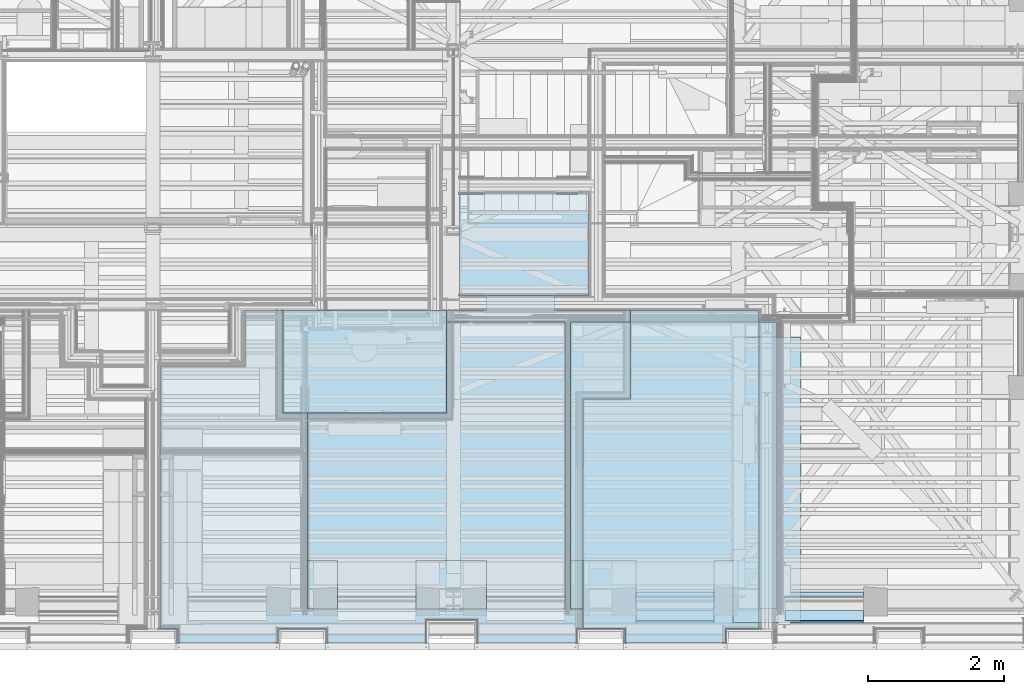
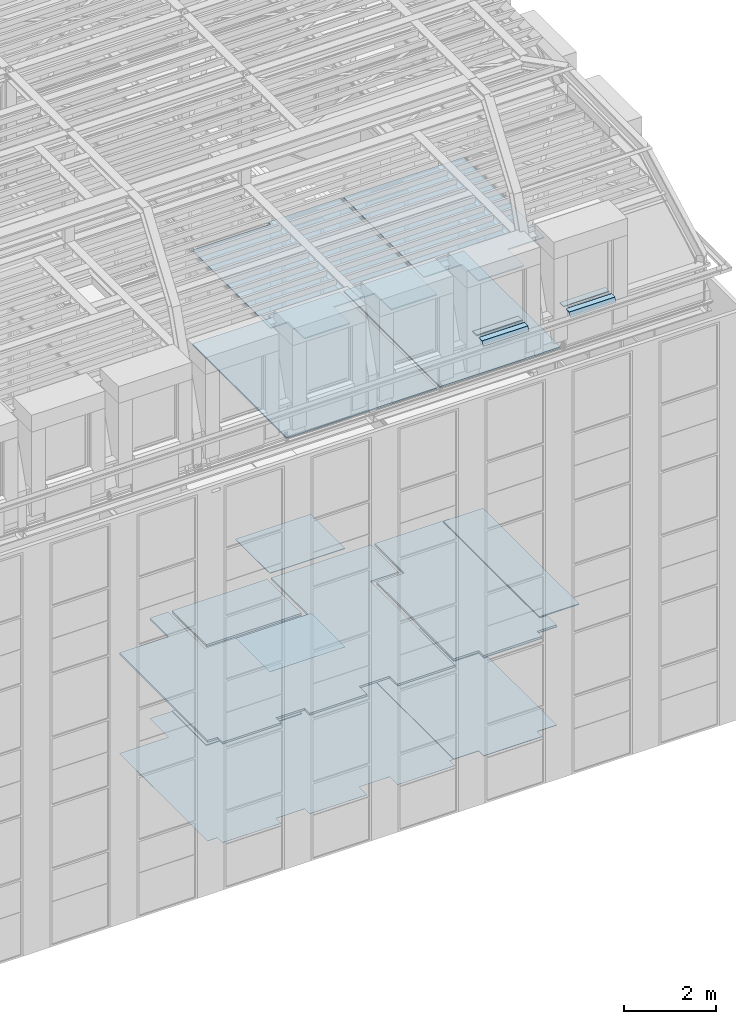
# One storey, part 91 of 183: 26 slabs.
"""IFC2X3 building model written with IfcOpenShell, lengths in metres."""

from ifc_helpers import new_model, entity, si_unit, converted_unit, derived_unit, money_unit, direction, frame, origin_with_axes, place, context, subcontext, project, spatial, faceted_brep, material, type_object, element, save


model = new_model("IFC2X3")

# Units and contexts
model_context = context("Model", 3, precision=1e-05, world=origin_with_axes(), true_north=direction((0.0, 1.0)))
body_context = subcontext(model_context, "Body", "Model", "MODEL_VIEW", scale=1.0)
ifc_project = project(units=[si_unit("LENGTHUNIT", "METRE"), si_unit("AREAUNIT", "SQUARE_METRE"), si_unit("VOLUMEUNIT", "CUBIC_METRE"), si_unit("ABSORBEDDOSEUNIT", "GRAY"), si_unit("AMOUNTOFSUBSTANCEUNIT", "MOLE"), si_unit("DOSEEQUIVALENTUNIT", "SIEVERT"), si_unit("ELECTRICCAPACITANCEUNIT", "FARAD"), si_unit("ELECTRICCHARGEUNIT", "COULOMB"), si_unit("ELECTRICCONDUCTANCEUNIT", "SIEMENS"), si_unit("ELECTRICCURRENTUNIT", "AMPERE"), si_unit("ELECTRICRESISTANCEUNIT", "OHM"), si_unit("ELECTRICVOLTAGEUNIT", "VOLT"), si_unit("ENERGYUNIT", "JOULE"), si_unit("FORCEUNIT", "NEWTON"), si_unit("FREQUENCYUNIT", "HERTZ"), si_unit("ILLUMINANCEUNIT", "LUX"), si_unit("INDUCTANCEUNIT", "HENRY"), si_unit("LUMINOUSFLUXUNIT", "LUMEN"), si_unit("LUMINOUSINTENSITYUNIT", "CANDELA"), si_unit("MAGNETICFLUXDENSITYUNIT", "TESLA"), si_unit("MAGNETICFLUXUNIT", "WEBER"), si_unit("MASSUNIT", "GRAM"), converted_unit("PLANEANGLEUNIT", "degree", entity("IfcReal", 0.0174532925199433), si_unit("PLANEANGLEUNIT", "RADIAN"), dimensions=[0, 0, 0, 0, 0, 0, 0]), si_unit("POWERUNIT", "WATT"), si_unit("PRESSUREUNIT", "PASCAL"), si_unit("RADIOACTIVITYUNIT", "BECQUEREL"), si_unit("SOLIDANGLEUNIT", "STERADIAN"), si_unit("THERMODYNAMICTEMPERATUREUNIT", "KELVIN"), si_unit("TIMEUNIT", "SECOND"), derived_unit("ACCELERATIONUNIT", [(si_unit("LENGTHUNIT", "METRE"), 1), (si_unit("TIMEUNIT", "SECOND"), -2)]), derived_unit("ANGULARVELOCITYUNIT", [(converted_unit("PLANEANGLEUNIT", "degree", entity("IfcReal", 0.0174532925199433), si_unit("PLANEANGLEUNIT", "RADIAN"), dimensions=[0, 0, 0, 0, 0, 0, 0]), 1), (si_unit("TIMEUNIT", "SECOND"), -1)]), derived_unit("CURVATUREUNIT", [(converted_unit("PLANEANGLEUNIT", "degree", entity("IfcReal", 0.0174532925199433), si_unit("PLANEANGLEUNIT", "RADIAN"), dimensions=[0, 0, 0, 0, 0, 0, 0]), 1), (si_unit("LENGTHUNIT", "METRE"), -1)]), derived_unit("DYNAMICVISCOSITYUNIT", [(si_unit("PRESSUREUNIT", "PASCAL"), 1), (si_unit("TIMEUNIT", "SECOND"), 1)]), derived_unit("HEATFLUXDENSITYUNIT", [(si_unit("POWERUNIT", "WATT"), 1), (si_unit("LENGTHUNIT", "METRE"), -2)]), derived_unit("HEATINGVALUEUNIT", [(si_unit("ENERGYUNIT", "JOULE"), 1), (si_unit("MASSUNIT", "GRAM"), -1)]), derived_unit("INTEGERCOUNTRATEUNIT", [(si_unit("TIMEUNIT", "SECOND"), -1)]), derived_unit("IONCONCENTRATIONUNIT", [(si_unit("MASSUNIT", "GRAM"), 1), (si_unit("VOLUMEUNIT", "CUBIC_METRE"), -1)]), derived_unit("ISOTHERMALMOISTURECAPACITYUNIT", [(si_unit("VOLUMEUNIT", "CUBIC_METRE"), 1), (si_unit("MASSUNIT", "GRAM"), -1)]), derived_unit("KINEMATICVISCOSITYUNIT", [(si_unit("AREAUNIT", "SQUARE_METRE"), 1), (si_unit("TIMEUNIT", "SECOND"), -1)]), derived_unit("LINEARFORCEUNIT", [(si_unit("FORCEUNIT", "NEWTON"), 1), (si_unit("LENGTHUNIT", "METRE"), -1)]), derived_unit("LINEARMOMENTUNIT", [(si_unit("FORCEUNIT", "NEWTON"), 1), (si_unit("LENGTHUNIT", "METRE"), -1)]), derived_unit("LINEARSTIFFNESSUNIT", [(si_unit("FORCEUNIT", "NEWTON"), 1), (si_unit("LENGTHUNIT", "METRE"), -1)]), derived_unit("LINEARVELOCITYUNIT", [(si_unit("LENGTHUNIT", "METRE"), 1), (si_unit("TIMEUNIT", "SECOND"), -1)]), derived_unit("LUMINOUSINTENSITYDISTRIBUTIONUNIT", [(si_unit("LUMINOUSINTENSITYUNIT", "CANDELA"), 1), (si_unit("LUMINOUSFLUXUNIT", "LUMEN"), -1)]), derived_unit("MASSDENSITYUNIT", [(si_unit("MASSUNIT", "GRAM"), 1), (si_unit("VOLUMEUNIT", "CUBIC_METRE"), -1)]), derived_unit("MASSFLOWRATEUNIT", [(si_unit("MASSUNIT", "GRAM"), 1), (si_unit("TIMEUNIT", "SECOND"), -1)]), derived_unit("MASSPERLENGTHUNIT", [(si_unit("MASSUNIT", "GRAM"), 1), (si_unit("LENGTHUNIT", "METRE"), -1)]), derived_unit("MODULUSOFELASTICITYUNIT", [(si_unit("FORCEUNIT", "NEWTON"), 1), (si_unit("AREAUNIT", "SQUARE_METRE"), -1)]), derived_unit("MODULUSOFLINEARSUBGRADEREACTIONUNIT", [(si_unit("FORCEUNIT", "NEWTON"), 1), (si_unit("LENGTHUNIT", "METRE"), -2)]), derived_unit("MODULUSOFROTATIONALSUBGRADEREACTIONUNIT", [(si_unit("FORCEUNIT", "NEWTON"), 1), (si_unit("LENGTHUNIT", "METRE"), 1)]), derived_unit("MODULUSOFSUBGRADEREACTIONUNIT", [(si_unit("FORCEUNIT", "NEWTON"), 1), (si_unit("VOLUMEUNIT", "CUBIC_METRE"), -1)]), derived_unit("MOISTUREDIFFUSIVITYUNIT", [(si_unit("VOLUMEUNIT", "CUBIC_METRE"), 1), (si_unit("TIMEUNIT", "SECOND"), -1)]), derived_unit("MOLECULARWEIGHTUNIT", [(si_unit("MASSUNIT", "GRAM"), 1), (si_unit("AMOUNTOFSUBSTANCEUNIT", "MOLE"), -1)]), derived_unit("PLANARFORCEUNIT", [(si_unit("FORCEUNIT", "NEWTON"), 1), (si_unit("LENGTHUNIT", "METRE"), -2)]), derived_unit("ROTATIONALFREQUENCYUNIT", [(si_unit("TIMEUNIT", "SECOND"), -1)]), derived_unit("ROTATIONALMASSUNIT", [(si_unit("MASSUNIT", "GRAM"), 1), (si_unit("LENGTHUNIT", "METRE"), 2)]), derived_unit("ROTATIONALSTIFFNESSUNIT", [(si_unit("FORCEUNIT", "NEWTON"), 1), (si_unit("LENGTHUNIT", "METRE"), 1), (converted_unit("PLANEANGLEUNIT", "degree", entity("IfcReal", 0.0174532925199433), si_unit("PLANEANGLEUNIT", "RADIAN"), dimensions=[0, 0, 0, 0, 0, 0, 0]), -1)]), derived_unit("SECTIONAREAINTEGRALUNIT", [(si_unit("LENGTHUNIT", "METRE"), 5)]), derived_unit("SECTIONMODULUSUNIT", [(si_unit("LENGTHUNIT", "METRE"), 3)]), derived_unit("SHEARMODULUSUNIT", [(si_unit("FORCEUNIT", "NEWTON"), 1), (si_unit("AREAUNIT", "SQUARE_METRE"), -1)]), derived_unit("SOUNDPOWERUNIT", [(si_unit("ENERGYUNIT", "JOULE"), 1), (si_unit("TIMEUNIT", "SECOND"), -1)]), derived_unit("SPECIFICHEATCAPACITYUNIT", [(si_unit("FORCEUNIT", "NEWTON"), 1), (si_unit("MASSUNIT", "GRAM"), -1), (si_unit("THERMODYNAMICTEMPERATUREUNIT", "KELVIN"), -1)]), derived_unit("TEMPERATUREGRADIENTUNIT", [(si_unit("THERMODYNAMICTEMPERATUREUNIT", "KELVIN"), 1), (si_unit("LENGTHUNIT", "METRE"), -1)]), derived_unit("THERMALADMITTANCEUNIT", [(si_unit("POWERUNIT", "WATT"), 1), (si_unit("AREAUNIT", "SQUARE_METRE"), -1), (si_unit("THERMODYNAMICTEMPERATUREUNIT", "KELVIN"), -1)]), derived_unit("THERMALCONDUCTANCEUNIT", [(si_unit("POWERUNIT", "WATT"), 1), (si_unit("LENGTHUNIT", "METRE"), -1), (si_unit("THERMODYNAMICTEMPERATUREUNIT", "KELVIN"), -1)]), derived_unit("THERMALEXPANSIONCOEFFICIENTUNIT", [(si_unit("THERMODYNAMICTEMPERATUREUNIT", "KELVIN"), -1)]), derived_unit("THERMALRESISTANCEUNIT", [(si_unit("AREAUNIT", "SQUARE_METRE"), 1), (si_unit("POWERUNIT", "WATT"), -1)]), derived_unit("THERMALTRANSMITTANCEUNIT", [(si_unit("POWERUNIT", "WATT"), 1), (si_unit("AREAUNIT", "SQUARE_METRE"), -1), (si_unit("THERMODYNAMICTEMPERATUREUNIT", "KELVIN"), -1)]), derived_unit("TORQUEUNIT", [(si_unit("FORCEUNIT", "NEWTON"), 1), (si_unit("LENGTHUNIT", "METRE"), 1)]), derived_unit("VAPORPERMEABILITYUNIT", [(si_unit("MASSUNIT", "GRAM"), 1), (si_unit("TIMEUNIT", "SECOND"), -1)]), derived_unit("VOLUMETRICFLOWRATEUNIT", [(si_unit("VOLUMEUNIT", "CUBIC_METRE"), 1), (si_unit("TIMEUNIT", "SECOND"), -1)]), derived_unit("WARPINGCONSTANTUNIT", [(si_unit("LENGTHUNIT", "METRE"), 6)]), derived_unit("WARPINGMOMENTUNIT", [(si_unit("FORCEUNIT", "NEWTON"), 1), (si_unit("LENGTHUNIT", "METRE"), 2)]), money_unit("GBP")], contexts=[model_context])

# Site, building, storey
site_placement = place(None, origin_with_axes())
site = spatial("IfcSite", under=ifc_project, at=site_placement, Name="Site", CompositionType="ELEMENT")
building_placement = place(site_placement, origin_with_axes())
building = spatial("IfcBuilding", under=site, at=building_placement, Name="Building01", CompositionType="ELEMENT")
storey_placement = place(building_placement, frame((0.0, 0.0, 5.15), z_axis=(0.0, 0.0, 1.0), x_axis=(1.0, 0.0, 0.0)))
storey = spatial("IfcBuildingStorey", under=building, at=storey_placement, Name="1F", CompositionType="ELEMENT", Elevation=5.15)

# Slabs
ifc_material_1 = material(Name="A_BSUK_CeilingSoffitFinishes_Suspended")
slab_type_1 = type_object("IfcSlabType", Name="A-FloorsSlabs A_BSUK_Slabs", PredefinedType="FLOOR")
placement = place(storey_placement, frame((0.0, 0.0, -5.15), z_axis=(0.0, 0.0, 1.0), x_axis=(1.0, 0.0, 0.0)))
element("IfcSlab", 1, at=placement, inside=storey, type_object=slab_type_1, material=ifc_material_1, Name="A-FloorsSlabs A_BSUK_Slabs", ObjectType="CompoundSlabLeaf", context=body_context, shape_type="Brep", body=[
    faceted_brep([(18.0, 6.705, 7.765), (18.0, 6.705, 7.78), (19.897661, 6.705, 7.78), (19.897661, 6.705, 7.765), (18.0, 5.205, 7.765), (18.0, 5.205, 7.78), (19.897661, 5.205, 7.765), (19.897661, 5.205, 7.78)], [[[0, 1, 2, 3]], [[4, 5, 1, 0]], [[6, 7, 5, 4]], [[3, 2, 7, 6]], [[1, 5, 7, 2]], [[3, 6, 4, 0]]]),
])
ifc_material_2 = material(Name="A_BSUK_ExpandedPolystyreneBoards")
element("IfcSlab", 2, at=placement, inside=storey, type_object=slab_type_1, material=ifc_material_2, Name="A-FloorsSlabs A_BSUK_Slabs", ObjectType="CompoundSlabLeaf", context=body_context, shape_type="Brep", body=[
    faceted_brep([(18.0, 6.69, 5.15), (18.0, 6.69, 5.153), (19.897661, 6.69, 5.153), (19.897661, 6.69, 5.15), (18.0, 5.205, 5.15), (18.0, 5.205, 5.153), (19.897661, 5.205, 5.15), (19.897661, 5.205, 5.153)], [[[0, 1, 2, 3]], [[4, 5, 1, 0]], [[6, 7, 5, 4]], [[3, 2, 7, 6]], [[1, 5, 7, 2]], [[3, 6, 4, 0]]]),
])
element("IfcSlab", 3, at=placement, inside=storey, type_object=slab_type_1, material=ifc_material_2, Name="A-FloorsSlabs A_BSUK_Slabs", ObjectType="CompoundSlabLeaf", context=body_context, shape_type="Brep", body=[
    faceted_brep([(14.85, 4.164428, 5.15), (14.85, 4.164428, 5.153), (14.85, 4.98, 5.153), (14.85, 4.98, 5.15), (13.6125, 4.164428, 5.15), (13.6125, 4.164428, 5.153), (13.6125, 0.318, 5.15), (13.6125, 0.318, 5.153), (13.865, 0.318, 5.15), (13.865, 0.318, 5.153), (13.865, 0.1, 5.15), (13.865, 0.1, 5.153), (15.335, 0.1, 5.15), (15.335, 0.1, 5.153), (15.335, 0.318, 5.15), (15.335, 0.318, 5.153), (16.055, 0.318, 5.15), (16.055, 0.318, 5.153), (16.055, 0.1, 5.15), (16.055, 0.1, 5.153), (17.502, 0.1, 5.15), (17.502, 0.1, 5.153), (17.502, 0.448, 5.15), (17.502, 0.448, 5.153), (18.268, 0.448, 5.15), (18.268, 0.448, 5.153), (18.268, 0.1, 5.15), (18.268, 0.1, 5.153), (19.715, 0.1, 5.15), (19.715, 0.1, 5.153), (19.715, 0.318, 5.15), (19.715, 0.318, 5.153), (20.435, 0.318, 5.15), (20.435, 0.318, 5.153), (20.435, 0.1, 5.15), (20.435, 0.1, 5.153), (21.905, 0.1, 5.15), (21.905, 0.1, 5.153), (21.905, 0.318, 5.15), (21.905, 0.318, 5.153), (22.4, 0.318, 5.15), (22.4, 0.318, 5.153), (22.4, 4.98, 5.15), (22.4, 4.98, 5.153), (19.392, 4.98, 5.15), (19.392, 4.98, 5.153), (19.392, 5.205, 5.15), (19.392, 5.205, 5.153), (18.392, 5.205, 5.15), (18.392, 5.205, 5.153), (18.392, 4.98, 5.15), (18.392, 4.98, 5.153), (18.0, 4.98, 5.15), (18.0, 4.98, 5.153)], [[[0, 1, 2, 3]], [[4, 5, 1, 0]], [[6, 7, 5, 4]], [[8, 9, 7, 6]], [[10, 11, 9, 8]], [[12, 13, 11, 10]], [[14, 15, 13, 12]], [[16, 17, 15, 14]], [[18, 19, 17, 16]], [[20, 21, 19, 18]], [[22, 23, 21, 20]], [[24, 25, 23, 22]], [[26, 27, 25, 24]], [[28, 29, 27, 26]], [[30, 31, 29, 28]], [[32, 33, 31, 30]], [[34, 35, 33, 32]], [[36, 37, 35, 34]], [[38, 39, 37, 36]], [[40, 41, 39, 38]], [[42, 43, 41, 40]], [[44, 45, 43, 42]], [[46, 47, 45, 44]], [[48, 49, 47, 46]], [[50, 51, 49, 48]], [[52, 53, 51, 50]], [[3, 2, 53, 52]], [[1, 5, 7, 9, 11, 13, 15, 17, 19, 21, 23, 25, 27, 29, 31, 33, 35, 37, 39, 41, 43, 45, 47, 49, 51, 53, 2]], [[3, 52, 50, 48, 46, 44, 42, 40, 38, 36, 34, 32, 30, 28, 26, 24, 22, 20, 18, 16, 14, 12, 10, 8, 6, 4, 0]]]),
])
ifc_material_3 = material(Name="A_BSUK_Ceramic_FloorTiles")
element("IfcSlab", 4, at=placement, inside=storey, type_object=slab_type_1, material=ifc_material_3, Name="A-FloorsSlabs A_BSUK_Slabs", ObjectType="CompoundSlabLeaf", context=body_context, shape_type="Brep", body=[
    faceted_brep([(15.4075, 4.98, 5.153), (15.4075, 4.98, 5.165), (17.8075, 4.98, 5.165), (17.8075, 4.98, 5.153), (15.4075, 4.259428, 5.153), (15.4075, 4.259428, 5.165), (15.4075, 3.48, 5.153), (15.4075, 3.48, 5.165), (17.8075, 3.48, 5.153), (17.8075, 3.48, 5.165)], [[[0, 1, 2, 3]], [[4, 5, 1, 0]], [[6, 7, 5, 4]], [[8, 9, 7, 6]], [[3, 2, 9, 8]], [[1, 5, 7, 9, 2]], [[3, 8, 6, 4, 0]]]),
])
ifc_material_4 = material(Name="A_BSUK_Carpet-Pile")
element("IfcSlab", 5, at=placement, inside=storey, type_object=slab_type_1, material=ifc_material_4, Name="A-FloorsSlabs A_BSUK_Slabs", ObjectType="CompoundSlabLeaf", context=body_context, shape_type="Brep", body=[
    faceted_brep([(20.51, 4.98, 5.153), (20.51, 4.98, 5.165), (22.4, 4.98, 5.165), (22.4, 4.98, 5.153), (20.51, 3.685, 5.153), (20.51, 3.685, 5.165), (19.81, 3.685, 5.153), (19.81, 3.685, 5.165), (19.81, 0.318, 5.153), (19.81, 0.318, 5.165), (20.435, 0.318, 5.153), (20.435, 0.318, 5.165), (20.435, 0.1, 5.153), (20.435, 0.1, 5.165), (21.905, 0.1, 5.153), (21.905, 0.1, 5.165), (21.905, 0.318, 5.153), (21.905, 0.318, 5.165), (22.4, 0.318, 5.153), (22.4, 0.318, 5.165)], [[[0, 1, 2, 3]], [[4, 5, 1, 0]], [[6, 7, 5, 4]], [[8, 9, 7, 6]], [[10, 11, 9, 8]], [[12, 13, 11, 10]], [[14, 15, 13, 12]], [[16, 17, 15, 14]], [[18, 19, 17, 16]], [[3, 2, 19, 18]], [[1, 5, 7, 9, 11, 13, 15, 17, 19, 2]], [[3, 18, 16, 14, 12, 10, 8, 6, 4, 0]]]),
])
element("IfcSlab", 6, at=placement, inside=storey, type_object=slab_type_1, material=ifc_material_1, Name="A-FloorsSlabs A_BSUK_Slabs", ObjectType="CompoundSlabLeaf", context=body_context, shape_type="Brep", body=[
    faceted_brep([(15.4075, 4.98, 7.765), (15.4075, 4.98, 7.78), (17.8075, 4.98, 7.78), (17.8075, 4.98, 7.765), (15.4075, 4.259428, 7.765), (15.4075, 4.259428, 7.78), (15.4075, 3.48, 7.765), (15.4075, 3.48, 7.78), (17.8075, 3.48, 7.765), (17.8075, 3.48, 7.78)], [[[0, 1, 2, 3]], [[4, 5, 1, 0]], [[6, 7, 5, 4]], [[8, 9, 7, 6]], [[3, 2, 9, 8]], [[1, 5, 7, 9, 2]], [[3, 8, 6, 4, 0]]]),
])
element("IfcSlab", 7, at=placement, inside=storey, type_object=slab_type_1, material=ifc_material_1, Name="A-FloorsSlabs A_BSUK_Slabs", ObjectType="CompoundSlabLeaf", context=body_context, shape_type="Brep", body=[
    faceted_brep([(20.51, 4.98, 7.765), (20.51, 4.98, 7.78), (22.4, 4.98, 7.78), (22.4, 4.98, 7.765), (20.51, 3.685, 7.765), (20.51, 3.685, 7.78), (19.81, 3.685, 7.765), (19.81, 3.685, 7.78), (19.81, 0.318, 7.765), (19.81, 0.318, 7.78), (20.435, 0.318, 7.765), (20.435, 0.318, 7.78), (20.435, 0.1, 7.765), (20.435, 0.1, 7.78), (21.905, 0.1, 7.765), (21.905, 0.1, 7.78), (21.905, 0.318, 7.765), (21.905, 0.318, 7.78), (22.4, 0.318, 7.765), (22.4, 0.318, 7.78)], [[[0, 1, 2, 3]], [[4, 5, 1, 0]], [[6, 7, 5, 4]], [[8, 9, 7, 6]], [[10, 11, 9, 8]], [[12, 13, 11, 10]], [[14, 15, 13, 12]], [[16, 17, 15, 14]], [[18, 19, 17, 16]], [[3, 2, 19, 18]], [[1, 5, 7, 9, 11, 13, 15, 17, 19, 2]], [[3, 18, 16, 14, 12, 10, 8, 6, 4, 0]]]),
])
element("IfcSlab", 8, at=placement, inside=storey, type_object=slab_type_1, material=ifc_material_1, Name="A-FloorsSlabs A_BSUK_Slabs", ObjectType="CompoundSlabLeaf", context=body_context, shape_type="Brep", body=[
    faceted_brep([(22.0125, 0.4, 8.115), (22.0125, 0.4, 8.13), (22.0125, 4.593, 8.13), (22.0125, 4.593, 8.115), (23.0125, 0.4, 8.115), (23.0125, 0.4, 8.13), (23.0125, 4.593, 8.115), (23.0125, 4.593, 8.13)], [[[0, 1, 2, 3]], [[4, 5, 1, 0]], [[6, 7, 5, 4]], [[3, 2, 7, 6]], [[1, 5, 7, 2]], [[3, 6, 4, 0]]]),
])
element("IfcSlab", 9, at=placement, inside=storey, type_object=slab_type_1, material=ifc_material_1, Name="A-FloorsSlabs A_BSUK_Slabs", ObjectType="CompoundSlabLeaf", context=body_context, shape_type="Brep", body=[
    faceted_brep([(22.0125, 0.4, 8.1), (22.0125, 0.4, 8.115), (22.0125, 4.593, 8.115), (22.0125, 4.593, 8.1), (23.0125, 0.4, 8.1), (23.0125, 0.4, 8.115), (23.0125, 4.593, 8.1), (23.0125, 4.593, 8.115)], [[[0, 1, 2, 3]], [[4, 5, 1, 0]], [[6, 7, 5, 4]], [[3, 2, 7, 6]], [[1, 5, 7, 2]], [[3, 6, 4, 0]]]),
])
ifc_material_5 = material(Name="A_BSUK_Timber_Miscellaneous")
slab_10_placement = place(storey_placement, frame((21.740024, 0.575339, 10.78), z_axis=(0.0, 0.0, 1.0), x_axis=(-1.0, 0.0, 0.0)))
element("IfcSlab", 10, at=slab_10_placement, inside=storey, type_object=slab_type_1, material=ifc_material_5, Name="A-FloorsSlabs A_BSUK_Slabs", ObjectType="A-FloorsSlabs A_BSUK_Slabs", context=body_context, shape_type="Brep", body=[
    faceted_brep([(0.0, 0.0, 0.0), (1.15, 0.0, 0.0), (1.15, 0.0, 0.022498), (0.0, 0.0, 0.022498), (1.15, 0.142391, 0.017505), (0.0, 0.142391, 0.017505), (1.15, 0.148079, 0.0), (0.0, 0.148079, 0.0)], [[[0, 1, 2, 3]], [[3, 2, 4, 5]], [[5, 4, 6, 7]], [[7, 6, 1, 0]], [[1, 6, 4, 2]], [[3, 5, 7, 0]]]),
])
ifc_material_6 = material(Name="A_BSUK_Steel_Miscellaneous")
slab_11_placement = place(storey_placement, frame((21.740024, 0.575339, 10.802498), z_axis=(0.0, 0.0, 1.0), x_axis=(-1.0, 0.0, 0.0)))
element("IfcSlab", 11, at=slab_11_placement, inside=storey, type_object=slab_type_1, material=ifc_material_6, Name="A-FloorsSlabs A_BSUK_Slabs", ObjectType="A-FloorsSlabs A_BSUK_Slabs", context=body_context, shape_type="Brep", body=[
    faceted_brep([(0.0, 0.0, 0.0), (1.15, 0.0, 0.0), (1.15, 0.0, 0.007502), (0.0, 0.0, 0.007502), (1.15, 0.001, 0.007502), (0.0, 0.001, 0.007502), (1.15, 0.0025, 0.002414), (0.0, 0.0025, 0.002414), (1.15, 0.144228, -0.002556), (0.0, 0.144228, -0.002556), (1.15, 0.183199, -0.122498), (0.0, 0.183199, -0.122498), (1.15, 0.183199, -0.127498), (0.0, 0.183199, -0.127498), (1.15, 0.180699, -0.127498), (0.0, 0.180699, -0.127498), (1.15, 0.180699, -0.122894), (0.0, 0.180699, -0.122894), (1.15, 0.142391, -0.004993), (0.0, 0.142391, -0.004993)], [[[0, 1, 2, 3]], [[3, 2, 4, 5]], [[5, 4, 6, 7]], [[7, 6, 8, 9]], [[9, 8, 10, 11]], [[11, 10, 12, 13]], [[13, 12, 14, 15]], [[15, 14, 16, 17]], [[17, 16, 18, 19]], [[19, 18, 1, 0]], [[1, 18, 16, 14, 12, 10, 8, 6, 4, 2]], [[3, 5, 7, 9, 11, 13, 15, 17, 19, 0]]]),
])
slab_12_placement = place(storey_placement, frame((23.930024, 0.575339, 10.78), z_axis=(0.0, 0.0, 1.0), x_axis=(-1.0, 0.0, 0.0)))
element("IfcSlab", 12, at=slab_12_placement, inside=storey, type_object=slab_type_1, material=ifc_material_5, Name="A-FloorsSlabs A_BSUK_Slabs", ObjectType="A-FloorsSlabs A_BSUK_Slabs", context=body_context, shape_type="Brep", body=[
    faceted_brep([(0.0, 0.0, 0.0), (1.15, 0.0, 0.0), (1.15, 0.0, 0.022498), (0.0, 0.0, 0.022498), (1.15, 0.142391, 0.017505), (0.0, 0.142391, 0.017505), (1.15, 0.148079, 0.0), (0.0, 0.148079, 0.0)], [[[0, 1, 2, 3]], [[3, 2, 4, 5]], [[5, 4, 6, 7]], [[7, 6, 1, 0]], [[1, 6, 4, 2]], [[3, 5, 7, 0]]]),
])
slab_13_placement = place(storey_placement, frame((23.930024, 0.575339, 10.802498), z_axis=(0.0, 0.0, 1.0), x_axis=(-1.0, 0.0, 0.0)))
element("IfcSlab", 13, at=slab_13_placement, inside=storey, type_object=slab_type_1, material=ifc_material_6, Name="A-FloorsSlabs A_BSUK_Slabs", ObjectType="A-FloorsSlabs A_BSUK_Slabs", context=body_context, shape_type="Brep", body=[
    faceted_brep([(0.0, 0.0, 0.0), (1.15, 0.0, 0.0), (1.15, 0.0, 0.007502), (0.0, 0.0, 0.007502), (1.15, 0.001, 0.007502), (0.0, 0.001, 0.007502), (1.15, 0.0025, 0.002414), (0.0, 0.0025, 0.002414), (1.15, 0.144228, -0.002556), (0.0, 0.144228, -0.002556), (1.15, 0.183199, -0.122498), (0.0, 0.183199, -0.122498), (1.15, 0.183199, -0.127498), (0.0, 0.183199, -0.127498), (1.15, 0.180699, -0.127498), (0.0, 0.180699, -0.127498), (1.15, 0.180699, -0.122894), (0.0, 0.180699, -0.122894), (1.15, 0.142391, -0.004993), (0.0, 0.142391, -0.004993)], [[[0, 1, 2, 3]], [[3, 2, 4, 5]], [[5, 4, 6, 7]], [[7, 6, 8, 9]], [[9, 8, 10, 11]], [[11, 10, 12, 13]], [[13, 12, 14, 15]], [[15, 14, 16, 17]], [[17, 16, 18, 19]], [[19, 18, 1, 0]], [[1, 18, 16, 14, 12, 10, 8, 6, 4, 2]], [[3, 5, 7, 9, 11, 13, 15, 17, 19, 0]]]),
])
element("IfcSlab", 14, at=placement, inside=storey, type_object=slab_type_1, material=ifc_material_1, Name="A-FloorsSlabs A_BSUK_Slabs", ObjectType="CompoundSlabLeaf", context=body_context, shape_type="Brep", body=[
    faceted_brep([(22.660024, 4.817, 17.423), (22.660024, 4.817, 17.438), (22.660024, 1.312402, 17.438), (22.660024, 1.312402, 17.423), (19.629976, 4.817, 17.423), (19.629976, 4.817, 17.438), (19.629976, 1.312402, 17.423), (19.629976, 1.312402, 17.438), (20.590024, 1.312402, 17.423), (20.590024, 1.312402, 17.438), (20.590024, 0.599939, 17.423), (20.590024, 0.599939, 17.438), (21.739976, 0.599939, 17.423), (21.739976, 0.599939, 17.438), (21.739976, 1.312402, 17.423), (21.739976, 1.312402, 17.438)], [[[0, 1, 2, 3]], [[4, 5, 1, 0]], [[6, 7, 5, 4]], [[8, 9, 7, 6]], [[10, 11, 9, 8]], [[12, 13, 11, 10]], [[14, 15, 13, 12]], [[3, 2, 15, 14]], [[1, 5, 7, 9, 11, 13, 15, 2]], [[3, 14, 12, 10, 8, 6, 4, 0]]]),
])
element("IfcSlab", 15, at=placement, inside=storey, type_object=slab_type_1, material=ifc_material_1, Name="A-FloorsSlabs A_BSUK_Slabs", ObjectType="CompoundSlabLeaf", context=body_context, shape_type="Brep", body=[
    faceted_brep([(19.549976, 4.817, 17.423), (19.549976, 4.817, 17.438), (19.549976, 0.599939, 17.438), (19.549976, 0.599939, 17.423), (17.73844, 4.817, 17.423), (17.73844, 4.817, 17.438), (17.73844, 4.717, 17.423), (17.73844, 4.717, 17.438), (15.77, 4.717, 17.423), (15.77, 4.717, 17.438), (15.77, 1.31, 17.423), (15.77, 1.31, 17.438), (16.210024, 1.31, 17.423), (16.210024, 1.31, 17.438), (16.210024, 0.599939, 17.423), (16.210024, 0.599939, 17.438), (17.359976, 0.599939, 17.423), (17.359976, 0.599939, 17.438), (17.359976, 1.312402, 17.423), (17.359976, 1.312402, 17.438), (18.400024, 1.312402, 17.423), (18.400024, 1.312402, 17.438), (18.400024, 0.599939, 17.423), (18.400024, 0.599939, 17.438)], [[[0, 1, 2, 3]], [[4, 5, 1, 0]], [[6, 7, 5, 4]], [[8, 9, 7, 6]], [[10, 11, 9, 8]], [[12, 13, 11, 10]], [[14, 15, 13, 12]], [[16, 17, 15, 14]], [[18, 19, 17, 16]], [[20, 21, 19, 18]], [[22, 23, 21, 20]], [[3, 2, 23, 22]], [[1, 5, 7, 9, 11, 13, 15, 17, 19, 21, 23, 2]], [[3, 22, 20, 18, 16, 14, 12, 10, 8, 6, 4, 0]]]),
])
element("IfcSlab", 16, at=placement, inside=storey, type_object=slab_type_1, material=ifc_material_2, Name="A-FloorsSlabs A_BSUK_Slabs", ObjectType="CompoundSlabLeaf", context=body_context, shape_type="Brep", body=[
    faceted_brep([(22.660024, 4.817, 14.92), (22.660024, 4.817, 14.952), (22.660024, 0.6038, 14.952), (22.660024, 0.6038, 14.92), (19.629976, 4.817, 14.92), (19.629976, 4.817, 14.952), (19.629976, 0.6038, 14.92), (19.629976, 0.6038, 14.952), (20.590024, 0.6038, 14.92), (20.590024, 0.6038, 14.952), (21.739976, 0.6038, 14.92), (21.739976, 0.6038, 14.952)], [[[0, 1, 2, 3]], [[4, 5, 1, 0]], [[6, 7, 5, 4]], [[8, 9, 7, 6]], [[10, 11, 9, 8]], [[3, 2, 11, 10]], [[1, 5, 7, 9, 11, 2]], [[3, 10, 8, 6, 4, 0]]]),
])
element("IfcSlab", 17, at=placement, inside=storey, type_object=slab_type_1, material=ifc_material_2, Name="A-FloorsSlabs A_BSUK_Slabs", ObjectType="CompoundSlabLeaf", context=body_context, shape_type="Brep", body=[
    faceted_brep([(19.549976, 4.817, 14.92), (19.549976, 4.817, 14.952), (19.549976, 0.6038, 14.952), (19.549976, 0.6038, 14.92), (17.73844, 4.817, 14.92), (17.73844, 4.817, 14.952), (17.73844, 4.717, 14.92), (17.73844, 4.717, 14.952), (15.77, 4.717, 14.92), (15.77, 4.717, 14.952), (15.77, 0.6038, 14.92), (15.77, 0.6038, 14.952), (16.210024, 0.6038, 14.92), (16.210024, 0.6038, 14.952), (17.359976, 0.6038, 14.92), (17.359976, 0.6038, 14.952), (18.400024, 0.6038, 14.92), (18.400024, 0.6038, 14.952)], [[[0, 1, 2, 3]], [[4, 5, 1, 0]], [[6, 7, 5, 4]], [[8, 9, 7, 6]], [[10, 11, 9, 8]], [[12, 13, 11, 10]], [[14, 15, 13, 12]], [[16, 17, 15, 14]], [[3, 2, 17, 16]], [[1, 5, 7, 9, 11, 13, 15, 17, 2]], [[3, 16, 14, 12, 10, 8, 6, 4, 0]]]),
])
element("IfcSlab", 18, at=placement, inside=storey, type_object=slab_type_1, material=ifc_material_5, Name="A-FloorsSlabs A_BSUK_Slabs", ObjectType="CompoundSlabLeaf", context=body_context, shape_type="Brep", body=[
    faceted_brep([(21.740024, 0.849939, 15.93), (21.740024, 0.849939, 15.955), (21.740024, 0.675339, 15.955), (21.740024, 0.675339, 15.93), (20.590024, 0.849939, 15.93), (20.590024, 0.849939, 15.955), (20.590025, 0.675339, 15.93), (20.590025, 0.675339, 15.955)], [[[0, 1, 2, 3]], [[4, 5, 1, 0]], [[6, 7, 5, 4]], [[3, 2, 7, 6]], [[1, 5, 7, 2]], [[3, 6, 4, 0]]]),
])
element("IfcSlab", 19, at=placement, inside=storey, type_object=slab_type_1, material=ifc_material_5, Name="A-FloorsSlabs A_BSUK_Slabs", ObjectType="CompoundSlabLeaf", context=body_context, shape_type="Brep", body=[
    faceted_brep([(23.930024, 0.849939, 15.93), (23.930024, 0.849939, 15.955), (23.930024, 0.675339, 15.955), (23.930024, 0.675339, 15.93), (22.780024, 0.849939, 15.93), (22.780024, 0.849939, 15.955), (22.780025, 0.675339, 15.93), (22.780025, 0.675339, 15.955)], [[[0, 1, 2, 3]], [[4, 5, 1, 0]], [[6, 7, 5, 4]], [[3, 2, 7, 6]], [[1, 5, 7, 2]], [[3, 6, 4, 0]]]),
])
element("IfcSlab", 20, at=placement, inside=storey, type_object=slab_type_1, material=ifc_material_1, Name="A-FloorsSlabs A_BSUK_Slabs", ObjectType="CompoundSlabLeaf", context=body_context, shape_type="Brep", body=[
    faceted_brep([(22.660024, 4.817, 17.438), (22.660024, 4.817, 17.453), (22.660024, 1.312402, 17.453), (22.660024, 1.312402, 17.438), (19.629976, 4.817, 17.438), (19.629976, 4.817, 17.453), (19.629976, 1.312402, 17.438), (19.629976, 1.312402, 17.453), (20.590024, 1.312402, 17.438), (20.590024, 1.312402, 17.453), (20.590024, 0.599939, 17.438), (20.590024, 0.599939, 17.453), (21.739976, 0.599939, 17.438), (21.739976, 0.599939, 17.453), (21.739976, 1.312402, 17.438), (21.739976, 1.312402, 17.453)], [[[0, 1, 2, 3]], [[4, 5, 1, 0]], [[6, 7, 5, 4]], [[8, 9, 7, 6]], [[10, 11, 9, 8]], [[12, 13, 11, 10]], [[14, 15, 13, 12]], [[3, 2, 15, 14]], [[1, 5, 7, 9, 11, 13, 15, 2]], [[3, 14, 12, 10, 8, 6, 4, 0]]]),
])
element("IfcSlab", 21, at=placement, inside=storey, type_object=slab_type_1, material=ifc_material_1, Name="A-FloorsSlabs A_BSUK_Slabs", ObjectType="CompoundSlabLeaf", context=body_context, shape_type="Brep", body=[
    faceted_brep([(19.549976, 4.817, 17.438), (19.549976, 4.817, 17.453), (19.549976, 0.599939, 17.453), (19.549976, 0.599939, 17.438), (17.73844, 4.817, 17.438), (17.73844, 4.817, 17.453), (17.73844, 4.717, 17.438), (17.73844, 4.717, 17.453), (15.77, 4.717, 17.438), (15.77, 4.717, 17.453), (15.77, 1.31, 17.438), (15.77, 1.31, 17.453), (16.210024, 1.31, 17.438), (16.210024, 1.31, 17.453), (16.210024, 0.599939, 17.438), (16.210024, 0.599939, 17.453), (17.359976, 0.599939, 17.438), (17.359976, 0.599939, 17.453), (17.359976, 1.312402, 17.438), (17.359976, 1.312402, 17.453), (18.400024, 1.312402, 17.438), (18.400024, 1.312402, 17.453), (18.400024, 0.599939, 17.438), (18.400024, 0.599939, 17.453)], [[[0, 1, 2, 3]], [[4, 5, 1, 0]], [[6, 7, 5, 4]], [[8, 9, 7, 6]], [[10, 11, 9, 8]], [[12, 13, 11, 10]], [[14, 15, 13, 12]], [[16, 17, 15, 14]], [[18, 19, 17, 16]], [[20, 21, 19, 18]], [[22, 23, 21, 20]], [[3, 2, 23, 22]], [[1, 5, 7, 9, 11, 13, 15, 17, 19, 21, 23, 2]], [[3, 22, 20, 18, 16, 14, 12, 10, 8, 6, 4, 0]]]),
])
slab_type_2 = type_object("IfcSlabType", Name="A-FloorsSlabs A_BSUK_ExpandedPolystyreneBoards", PredefinedType="FLOOR")
element("IfcSlab", 22, at=placement, inside=storey, type_object=slab_type_2, material=ifc_material_2, Name="A-FloorsSlabs A_BSUK_ExpandedPolystyreneBoards", ObjectType="CompoundSlabLeaf", context=body_context, shape_type="Brep", body=[
    faceted_brep([(17.9025, 4.98, 7.78), (17.9025, 4.98, 7.83), (18.395, 4.98, 7.83), (18.395, 4.98, 7.78), (17.9025, 4.232781, 7.78), (17.9025, 4.232781, 7.83), (17.9025, 3.385, 7.78), (17.9025, 3.385, 7.83), (15.3125, 3.385, 7.78), (15.3125, 3.385, 7.83), (15.3125, 4.98, 7.78), (15.3125, 4.98, 7.83), (14.85, 4.98, 7.78), (14.85, 4.98, 7.83), (14.85, 4.164428, 7.78), (14.85, 4.164428, 7.83), (13.6125, 4.164428, 7.78), (13.6125, 4.164428, 7.83), (13.6125, 0.318, 7.78), (13.6125, 0.318, 7.83), (13.865, 0.318, 7.78), (13.865, 0.318, 7.83), (13.865, 0.1, 7.78), (13.865, 0.1, 7.83), (15.335, 0.1, 7.78), (15.335, 0.1, 7.83), (15.335, 0.318, 7.78), (15.335, 0.318, 7.83), (16.055, 0.318, 7.78), (16.055, 0.318, 7.83), (16.055, 0.1, 7.78), (16.055, 0.1, 7.83), (17.502, 0.1, 7.78), (17.502, 0.1, 7.83), (17.502, 0.448, 7.78), (17.502, 0.448, 7.83), (18.268, 0.448, 7.78), (18.268, 0.448, 7.83), (18.268, 0.1, 7.78), (18.268, 0.1, 7.83), (19.715, 0.1, 7.78), (19.715, 0.1, 7.83), (19.715, 3.151781, 7.78), (19.715, 3.151781, 7.83), (19.715, 3.78, 7.78), (19.715, 3.78, 7.83), (20.415, 3.78, 7.78), (20.415, 3.78, 7.83), (20.415, 4.98, 7.78), (20.415, 4.98, 7.83), (19.395, 4.98, 7.78), (19.395, 4.98, 7.83)], [[[0, 1, 2, 3]], [[4, 5, 1, 0]], [[6, 7, 5, 4]], [[8, 9, 7, 6]], [[10, 11, 9, 8]], [[12, 13, 11, 10]], [[14, 15, 13, 12]], [[16, 17, 15, 14]], [[18, 19, 17, 16]], [[20, 21, 19, 18]], [[22, 23, 21, 20]], [[24, 25, 23, 22]], [[26, 27, 25, 24]], [[28, 29, 27, 26]], [[30, 31, 29, 28]], [[32, 33, 31, 30]], [[34, 35, 33, 32]], [[36, 37, 35, 34]], [[38, 39, 37, 36]], [[40, 41, 39, 38]], [[42, 43, 41, 40]], [[44, 45, 43, 42]], [[46, 47, 45, 44]], [[48, 49, 47, 46]], [[50, 51, 49, 48]], [[3, 2, 51, 50]], [[1, 5, 7, 9, 11, 13, 15, 17, 19, 21, 23, 25, 27, 29, 31, 33, 35, 37, 39, 41, 43, 45, 47, 49, 51, 2]], [[3, 50, 48, 46, 44, 42, 40, 38, 36, 34, 32, 30, 28, 26, 24, 22, 20, 18, 16, 14, 12, 10, 8, 6, 4, 0]]]),
])
element("IfcSlab", 23, at=placement, inside=storey, type_object=slab_type_2, material=ifc_material_2, Name="A-FloorsSlabs A_BSUK_ExpandedPolystyreneBoards", ObjectType="CompoundSlabLeaf", context=body_context, shape_type="Brep", body=[
    faceted_brep([(15.4075, 4.98, 7.78), (15.4075, 4.98, 7.83), (17.8075, 4.98, 7.83), (17.8075, 4.98, 7.78), (15.4075, 4.259428, 7.78), (15.4075, 4.259428, 7.83), (15.4075, 3.48, 7.78), (15.4075, 3.48, 7.83), (17.8075, 3.48, 7.78), (17.8075, 3.48, 7.83)], [[[0, 1, 2, 3]], [[4, 5, 1, 0]], [[6, 7, 5, 4]], [[8, 9, 7, 6]], [[3, 2, 9, 8]], [[1, 5, 7, 9, 2]], [[3, 8, 6, 4, 0]]]),
])
element("IfcSlab", 24, at=placement, inside=storey, type_object=slab_type_2, material=ifc_material_2, Name="A-FloorsSlabs A_BSUK_ExpandedPolystyreneBoards", ObjectType="CompoundSlabLeaf", context=body_context, shape_type="Brep", body=[
    faceted_brep([(20.51, 4.98, 7.78), (20.51, 4.98, 7.83), (22.4, 4.98, 7.83), (22.4, 4.98, 7.78), (20.51, 3.685, 7.78), (20.51, 3.685, 7.83), (19.81, 3.685, 7.78), (19.81, 3.685, 7.83), (19.81, 0.318, 7.78), (19.81, 0.318, 7.83), (20.435, 0.318, 7.78), (20.435, 0.318, 7.83), (20.435, 0.1, 7.78), (20.435, 0.1, 7.83), (21.905, 0.1, 7.78), (21.905, 0.1, 7.83), (21.905, 0.318, 7.78), (21.905, 0.318, 7.83), (22.4, 0.318, 7.78), (22.4, 0.318, 7.83)], [[[0, 1, 2, 3]], [[4, 5, 1, 0]], [[6, 7, 5, 4]], [[8, 9, 7, 6]], [[10, 11, 9, 8]], [[12, 13, 11, 10]], [[14, 15, 13, 12]], [[16, 17, 15, 14]], [[18, 19, 17, 16]], [[3, 2, 19, 18]], [[1, 5, 7, 9, 11, 13, 15, 17, 19, 2]], [[3, 18, 16, 14, 12, 10, 8, 6, 4, 0]]]),
])
slab_type_3 = type_object("IfcSlabType", Name="A-Finishes A_BSUK_Carpet-Pile", PredefinedType="FLOOR")
element("IfcSlab", 25, at=placement, inside=storey, type_object=slab_type_3, material=ifc_material_4, Name="A-Finishes A_BSUK_Carpet-Pile", ObjectType="CompoundSlabLeaf", context=body_context, shape_type="Brep", body=[
    faceted_brep([(22.660024, 4.817, 14.952), (22.660024, 4.817, 14.964), (22.660024, 0.6038, 14.964), (22.660024, 0.6038, 14.952), (19.629976, 4.817, 14.952), (19.629976, 4.817, 14.964), (19.629976, 0.6038, 14.952), (19.629976, 0.6038, 14.964), (20.590024, 0.6038, 14.952), (20.590024, 0.6038, 14.964), (21.739976, 0.6038, 14.952), (21.739976, 0.6038, 14.964)], [[[0, 1, 2, 3]], [[4, 5, 1, 0]], [[6, 7, 5, 4]], [[8, 9, 7, 6]], [[10, 11, 9, 8]], [[3, 2, 11, 10]], [[1, 5, 7, 9, 11, 2]], [[3, 10, 8, 6, 4, 0]]]),
])
element("IfcSlab", 26, at=placement, inside=storey, type_object=slab_type_3, material=ifc_material_4, Name="A-Finishes A_BSUK_Carpet-Pile", ObjectType="CompoundSlabLeaf", context=body_context, shape_type="Brep", body=[
    faceted_brep([(19.549976, 4.817, 14.952), (19.549976, 4.817, 14.964), (19.549976, 0.6038, 14.964), (19.549976, 0.6038, 14.952), (17.73844, 4.817, 14.952), (17.73844, 4.817, 14.964), (17.73844, 4.717, 14.952), (17.73844, 4.717, 14.964), (15.77, 4.717, 14.952), (15.77, 4.717, 14.964), (15.77, 0.6038, 14.952), (15.77, 0.6038, 14.964), (16.210024, 0.6038, 14.952), (16.210024, 0.6038, 14.964), (17.359976, 0.6038, 14.952), (17.359976, 0.6038, 14.964), (18.400024, 0.6038, 14.952), (18.400024, 0.6038, 14.964)], [[[0, 1, 2, 3]], [[4, 5, 1, 0]], [[6, 7, 5, 4]], [[8, 9, 7, 6]], [[10, 11, 9, 8]], [[12, 13, 11, 10]], [[14, 15, 13, 12]], [[16, 17, 15, 14]], [[3, 2, 17, 16]], [[1, 5, 7, 9, 11, 13, 15, 17, 2]], [[3, 16, 14, 12, 10, 8, 6, 4, 0]]]),
])

save(model, "model.ifc")
